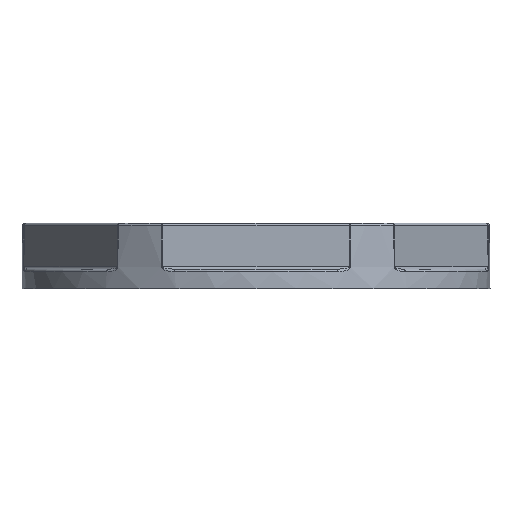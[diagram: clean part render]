
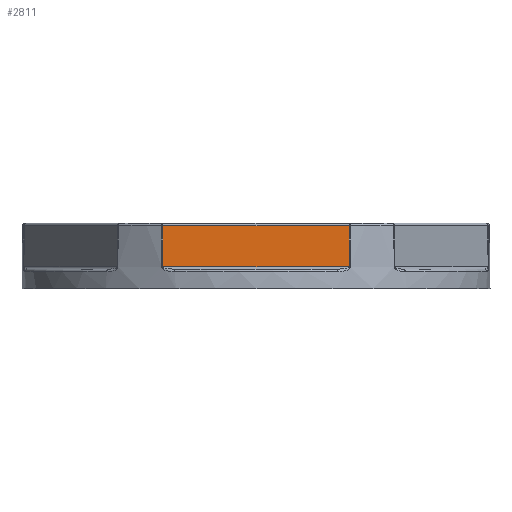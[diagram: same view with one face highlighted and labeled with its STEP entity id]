
A CAD part, front view. The second image highlights one B-rep face of the part: STEP entity #2811.
In plain terms, the highlighted planar face has unit normal (0, -1, 0.009).
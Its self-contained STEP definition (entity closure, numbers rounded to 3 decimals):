
#21 = CARTESIAN_POINT ( 'NONE',  ( -9.773, -22.468, 4.294 ) ) ;
#132 = DIRECTION ( 'NONE',  ( 0., -1., 0.009 ) ) ;
#238 = VERTEX_POINT ( 'NONE', #344 ) ;
#344 = CARTESIAN_POINT ( 'NONE',  ( -9.779, -22.493, 1.439 ) ) ;
#463 = CARTESIAN_POINT ( 'NONE',  ( -9.779, -22.493, 1.439 ) ) ;
#926 = CARTESIAN_POINT ( 'NONE',  ( 9.791, -22.487, 2.152 ) ) ;
#1041 = ORIENTED_EDGE ( 'NONE', *, *, #5553, .T. ) ;
#1137 = B_SPLINE_CURVE_WITH_KNOTS ( 'NONE', 3,
 ( #7430, #1595, #21, #2239, #3990, #6279, #463 ),
 .UNSPECIFIED., .F., .F.,
 ( 4, 3, 4 ),
 ( 0., 0.002, 0.004 ),
 .UNSPECIFIED. ) ;
#1149 = EDGE_CURVE ( 'NONE', #4033, #238, #1137, .T. ) ;
#1153 = VECTOR ( 'NONE', #7166, 1000. ) ;
#1190 = CARTESIAN_POINT ( 'NONE',  ( -12.98, -22.514, -0.905 ) ) ;
#1250 = DIRECTION ( 'NONE',  ( 1., 0., 0. ) ) ;
#1256 = EDGE_CURVE ( 'NONE', #6769, #4033, #2657, .T. ) ;
#1595 = CARTESIAN_POINT ( 'NONE',  ( -9.772, -22.462, 5.008 ) ) ;
#1651 = EDGE_LOOP ( 'NONE', ( #7362, #4003, #2188, #1041 ) ) ;
#1803 = EDGE_CURVE ( 'NONE', #238, #4496, #6894, .T. ) ;
#1857 = PLANE ( 'NONE',  #2498 ) ;
#2129 = CARTESIAN_POINT ( 'NONE',  ( -9.771, -22.456, 5.721 ) ) ;
#2188 = ORIENTED_EDGE ( 'NONE', *, *, #1803, .T. ) ;
#2239 = CARTESIAN_POINT ( 'NONE',  ( -9.775, -22.474, 3.58 ) ) ;
#2364 = VECTOR ( 'NONE', #1250, 1000. ) ;
#2498 = AXIS2_PLACEMENT_3D ( 'NONE', #1190, #132, #5329 ) ;
#2553 = CARTESIAN_POINT ( 'NONE',  ( 9.787, -22.468, 4.294 ) ) ;
#2626 = CARTESIAN_POINT ( 'NONE',  ( 9.79, -22.481, 2.866 ) ) ;
#2657 = LINE ( 'NONE', #5440, #1153 ) ;
#2811 = ADVANCED_FACE ( 'NONE', ( #3053 ), #1857, .T. ) ;
#3053 = FACE_OUTER_BOUND ( 'NONE', #1651, .T. ) ;
#3237 = CARTESIAN_POINT ( 'NONE',  ( 9.785, -22.456, 5.721 ) ) ;
#3567 = CARTESIAN_POINT ( 'NONE',  ( 9.851, -22.493, 1.439 ) ) ;
#3990 = CARTESIAN_POINT ( 'NONE',  ( -9.776, -22.481, 2.866 ) ) ;
#4003 = ORIENTED_EDGE ( 'NONE', *, *, #1149, .T. ) ;
#4033 = VERTEX_POINT ( 'NONE', #2129 ) ;
#4367 = CARTESIAN_POINT ( 'NONE',  ( 9.788, -22.474, 3.58 ) ) ;
#4496 = VERTEX_POINT ( 'NONE', #6169 ) ;
#4628 = B_SPLINE_CURVE_WITH_KNOTS ( 'NONE', 3,
 ( #4913, #926, #2626, #4367, #2553, #6123, #3237 ),
 .UNSPECIFIED., .F., .F.,
 ( 4, 3, 4 ),
 ( 0., 0.002, 0.004 ),
 .UNSPECIFIED. ) ;
#4913 = CARTESIAN_POINT ( 'NONE',  ( 9.792, -22.493, 1.439 ) ) ;
#5241 = CARTESIAN_POINT ( 'NONE',  ( 9.785, -22.456, 5.721 ) ) ;
#5329 = DIRECTION ( 'NONE',  ( 0., -0.009, -1. ) ) ;
#5440 = CARTESIAN_POINT ( 'NONE',  ( -9.828, -22.456, 5.721 ) ) ;
#5553 = EDGE_CURVE ( 'NONE', #4496, #6769, #4628, .T. ) ;
#6123 = CARTESIAN_POINT ( 'NONE',  ( 9.786, -22.462, 5.008 ) ) ;
#6169 = CARTESIAN_POINT ( 'NONE',  ( 9.792, -22.493, 1.439 ) ) ;
#6279 = CARTESIAN_POINT ( 'NONE',  ( -9.777, -22.487, 2.152 ) ) ;
#6769 = VERTEX_POINT ( 'NONE', #5241 ) ;
#6894 = LINE ( 'NONE', #3567, #2364 ) ;
#7166 = DIRECTION ( 'NONE',  ( -1., 0., 0. ) ) ;
#7362 = ORIENTED_EDGE ( 'NONE', *, *, #1256, .T. ) ;
#7430 = CARTESIAN_POINT ( 'NONE',  ( -9.771, -22.456, 5.721 ) ) ;
